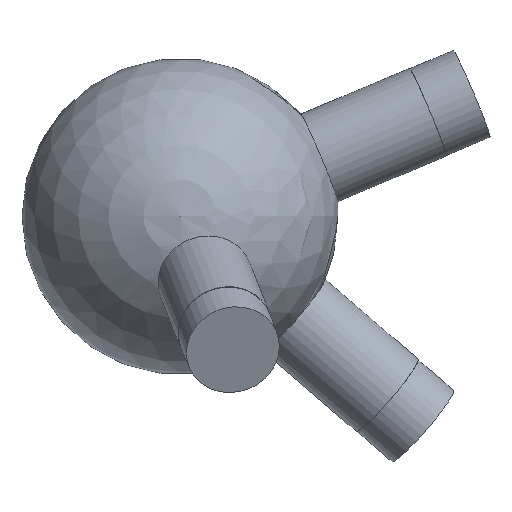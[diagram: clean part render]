
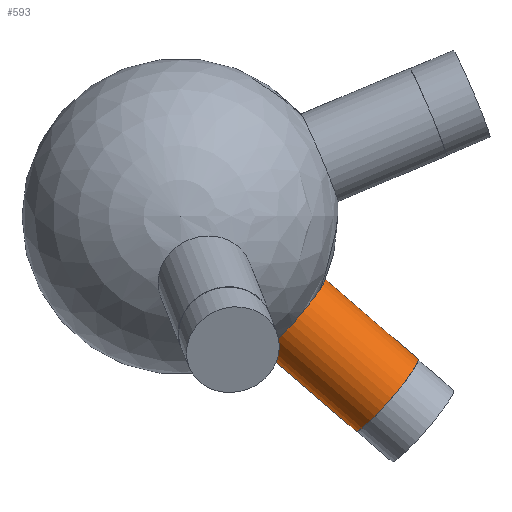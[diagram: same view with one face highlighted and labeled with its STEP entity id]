
A CAD part, top view. The second image highlights one B-rep face of the part: STEP entity #593.
In plain terms, the highlighted cylindrical face has radius 6 mm (diameter 12 mm), a full revolution.
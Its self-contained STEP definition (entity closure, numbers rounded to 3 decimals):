
#33 = SPHERICAL_SURFACE('',#34,20.);
#34 = AXIS2_PLACEMENT_3D('',#35,#36,#37);
#35 = CARTESIAN_POINT('',(0.,0.,0.));
#36 = DIRECTION('',(0.,0.,1.));
#37 = DIRECTION('',(1.,0.,-0.));
#278 = EDGE_CURVE('',#279,#279,#281,.T.);
#279 = VERTEX_POINT('',#280);
#280 = CARTESIAN_POINT('',(18.272,-7.841,
    -2.155));
#281 = SURFACE_CURVE('',#282,(#287,#349),.PCURVE_S1.);
#282 = CIRCLE('',#283,6.);
#283 = AXIS2_PLACEMENT_3D('',#284,#285,#286);
#284 = CARTESIAN_POINT('',(14.353,-12.383,-2.155
    ));
#285 = DIRECTION('',(0.752,-0.649,-0.113));
#286 = DIRECTION('',(0.653,0.757,0.));
#287 = PCURVE('',#33,#288);
#288 = DEFINITIONAL_REPRESENTATION('',(#289),#348);
#289 = B_SPLINE_CURVE_WITH_KNOTS('',8,(#290,#291,#292,#293,#294,#295,
    #296,#297,#298,#299,#300,#301,#302,#303,#304,#305,#306,#307,#308,
    #309,#310,#311,#312,#313,#314,#315,#316,#317,#318,#319,#320,#321,
    #322,#323,#324,#325,#326,#327,#328,#329,#330,#331,#332,#333,#334,
    #335,#336,#337,#338,#339,#340,#341,#342,#343,#344,#345,#346,#347),
  .UNSPECIFIED.,.F.,.F.,(9,7,7,7,7,7,7,7,9),(0.,0.785,
    1.473,2.074,3.126,3.915,
    4.507,5.395,6.283),.UNSPECIFIED.);
#290 = CARTESIAN_POINT('',(5.878,-0.108));
#291 = CARTESIAN_POINT('',(5.877,-0.079));
#292 = CARTESIAN_POINT('',(5.873,-0.049));
#293 = CARTESIAN_POINT('',(5.865,-0.02));
#294 = CARTESIAN_POINT('',(5.855,0.008));
#295 = CARTESIAN_POINT('',(5.842,0.034));
#296 = CARTESIAN_POINT('',(5.826,0.059));
#297 = CARTESIAN_POINT('',(5.807,0.082));
#298 = CARTESIAN_POINT('',(5.768,0.121));
#299 = CARTESIAN_POINT('',(5.748,0.138));
#300 = CARTESIAN_POINT('',(5.726,0.152));
#301 = CARTESIAN_POINT('',(5.703,0.165));
#302 = CARTESIAN_POINT('',(5.678,0.175));
#303 = CARTESIAN_POINT('',(5.653,0.182));
#304 = CARTESIAN_POINT('',(5.627,0.187));
#305 = CARTESIAN_POINT('',(5.578,0.192));
#306 = CARTESIAN_POINT('',(5.555,0.193));
#307 = CARTESIAN_POINT('',(5.532,0.191));
#308 = CARTESIAN_POINT('',(5.509,0.187));
#309 = CARTESIAN_POINT('',(5.487,0.182));
#310 = CARTESIAN_POINT('',(5.465,0.174));
#311 = CARTESIAN_POINT('',(5.444,0.165));
#312 = CARTESIAN_POINT('',(5.389,0.135));
#313 = CARTESIAN_POINT('',(5.358,0.111));
#314 = CARTESIAN_POINT('',(5.33,0.082));
#315 = CARTESIAN_POINT('',(5.306,0.049));
#316 = CARTESIAN_POINT('',(5.288,0.013));
#317 = CARTESIAN_POINT('',(5.274,-0.025));
#318 = CARTESIAN_POINT('',(5.267,-0.064));
#319 = CARTESIAN_POINT('',(5.264,-0.133));
#320 = CARTESIAN_POINT('',(5.265,-0.163));
#321 = CARTESIAN_POINT('',(5.27,-0.192));
#322 = CARTESIAN_POINT('',(5.278,-0.221));
#323 = CARTESIAN_POINT('',(5.29,-0.249));
#324 = CARTESIAN_POINT('',(5.305,-0.275));
#325 = CARTESIAN_POINT('',(5.323,-0.299));
#326 = CARTESIAN_POINT('',(5.359,-0.338));
#327 = CARTESIAN_POINT('',(5.376,-0.354));
#328 = CARTESIAN_POINT('',(5.394,-0.368));
#329 = CARTESIAN_POINT('',(5.414,-0.38));
#330 = CARTESIAN_POINT('',(5.436,-0.391));
#331 = CARTESIAN_POINT('',(5.458,-0.399));
#332 = CARTESIAN_POINT('',(5.481,-0.406));
#333 = CARTESIAN_POINT('',(5.54,-0.418));
#334 = CARTESIAN_POINT('',(5.577,-0.421));
#335 = CARTESIAN_POINT('',(5.614,-0.42));
#336 = CARTESIAN_POINT('',(5.65,-0.413));
#337 = CARTESIAN_POINT('',(5.685,-0.402));
#338 = CARTESIAN_POINT('',(5.718,-0.387));
#339 = CARTESIAN_POINT('',(5.748,-0.368));
#340 = CARTESIAN_POINT('',(5.8,-0.324));
#341 = CARTESIAN_POINT('',(5.823,-0.298));
#342 = CARTESIAN_POINT('',(5.843,-0.27));
#343 = CARTESIAN_POINT('',(5.858,-0.24));
#344 = CARTESIAN_POINT('',(5.869,-0.208));
#345 = CARTESIAN_POINT('',(5.876,-0.175));
#346 = CARTESIAN_POINT('',(5.879,-0.141));
#347 = CARTESIAN_POINT('',(5.878,-0.108));
#348 = ( GEOMETRIC_REPRESENTATION_CONTEXT(2) 
PARAMETRIC_REPRESENTATION_CONTEXT() REPRESENTATION_CONTEXT('2D SPACE',''
  ) );
#349 = PCURVE('',#350,#355);
#350 = CYLINDRICAL_SURFACE('',#351,6.);
#351 = AXIS2_PLACEMENT_3D('',#352,#353,#354);
#352 = CARTESIAN_POINT('',(0.,0.,0.));
#353 = DIRECTION('',(0.752,-0.649,-0.113));
#354 = DIRECTION('',(0.653,0.757,0.));
#355 = DEFINITIONAL_REPRESENTATION('',(#356),#360);
#356 = LINE('',#357,#358);
#357 = CARTESIAN_POINT('',(0.,19.079));
#358 = VECTOR('',#359,1.);
#359 = DIRECTION('',(1.,0.));
#360 = ( GEOMETRIC_REPRESENTATION_CONTEXT(2) 
PARAMETRIC_REPRESENTATION_CONTEXT() REPRESENTATION_CONTEXT('2D SPACE',''
  ) );
#593 = ADVANCED_FACE('',(#594),#350,.T.);
#594 = FACE_BOUND('',#595,.T.);
#595 = EDGE_LOOP('',(#596,#619,#646,#647));
#596 = ORIENTED_EDGE('',*,*,#597,.T.);
#597 = EDGE_CURVE('',#279,#598,#600,.T.);
#598 = VERTEX_POINT('',#599);
#599 = CARTESIAN_POINT('',(30.063,-18.013,
    -3.926));
#600 = SEAM_CURVE('',#601,(#605,#612),.PCURVE_S1.);
#601 = LINE('',#602,#603);
#602 = CARTESIAN_POINT('',(3.92,4.543,
    0.));
#603 = VECTOR('',#604,1.);
#604 = DIRECTION('',(0.752,-0.649,-0.113));
#605 = PCURVE('',#350,#606);
#606 = DEFINITIONAL_REPRESENTATION('',(#607),#611);
#607 = LINE('',#608,#609);
#608 = CARTESIAN_POINT('',(6.283,-0.));
#609 = VECTOR('',#610,1.);
#610 = DIRECTION('',(0.,1.));
#611 = ( GEOMETRIC_REPRESENTATION_CONTEXT(2) 
PARAMETRIC_REPRESENTATION_CONTEXT() REPRESENTATION_CONTEXT('2D SPACE',''
  ) );
#612 = PCURVE('',#350,#613);
#613 = DEFINITIONAL_REPRESENTATION('',(#614),#618);
#614 = LINE('',#615,#616);
#615 = CARTESIAN_POINT('',(0.,-0.));
#616 = VECTOR('',#617,1.);
#617 = DIRECTION('',(0.,1.));
#618 = ( GEOMETRIC_REPRESENTATION_CONTEXT(2) 
PARAMETRIC_REPRESENTATION_CONTEXT() REPRESENTATION_CONTEXT('2D SPACE',''
  ) );
#619 = ORIENTED_EDGE('',*,*,#620,.F.);
#620 = EDGE_CURVE('',#598,#598,#621,.T.);
#621 = SURFACE_CURVE('',#622,(#627,#634),.PCURVE_S1.);
#622 = CIRCLE('',#623,6.);
#623 = AXIS2_PLACEMENT_3D('',#624,#625,#626);
#624 = CARTESIAN_POINT('',(26.143,-22.556,
    -3.926));
#625 = DIRECTION('',(0.752,-0.649,-0.113));
#626 = DIRECTION('',(0.653,0.757,0.));
#627 = PCURVE('',#350,#628);
#628 = DEFINITIONAL_REPRESENTATION('',(#629),#633);
#629 = LINE('',#630,#631);
#630 = CARTESIAN_POINT('',(0.,34.751));
#631 = VECTOR('',#632,1.);
#632 = DIRECTION('',(1.,0.));
#633 = ( GEOMETRIC_REPRESENTATION_CONTEXT(2) 
PARAMETRIC_REPRESENTATION_CONTEXT() REPRESENTATION_CONTEXT('2D SPACE',''
  ) );
#634 = PCURVE('',#635,#640);
#635 = PLANE('',#636);
#636 = AXIS2_PLACEMENT_3D('',#637,#638,#639);
#637 = CARTESIAN_POINT('',(26.143,-22.556,
    -3.926));
#638 = DIRECTION('',(0.752,-0.649,-0.113));
#639 = DIRECTION('',(0.653,0.757,0.));
#640 = DEFINITIONAL_REPRESENTATION('',(#641),#645);
#641 = CIRCLE('',#642,6.);
#642 = AXIS2_PLACEMENT_2D('',#643,#644);
#643 = CARTESIAN_POINT('',(0.,0.));
#644 = DIRECTION('',(1.,0.));
#645 = ( GEOMETRIC_REPRESENTATION_CONTEXT(2) 
PARAMETRIC_REPRESENTATION_CONTEXT() REPRESENTATION_CONTEXT('2D SPACE',''
  ) );
#646 = ORIENTED_EDGE('',*,*,#597,.F.);
#647 = ORIENTED_EDGE('',*,*,#278,.T.);
